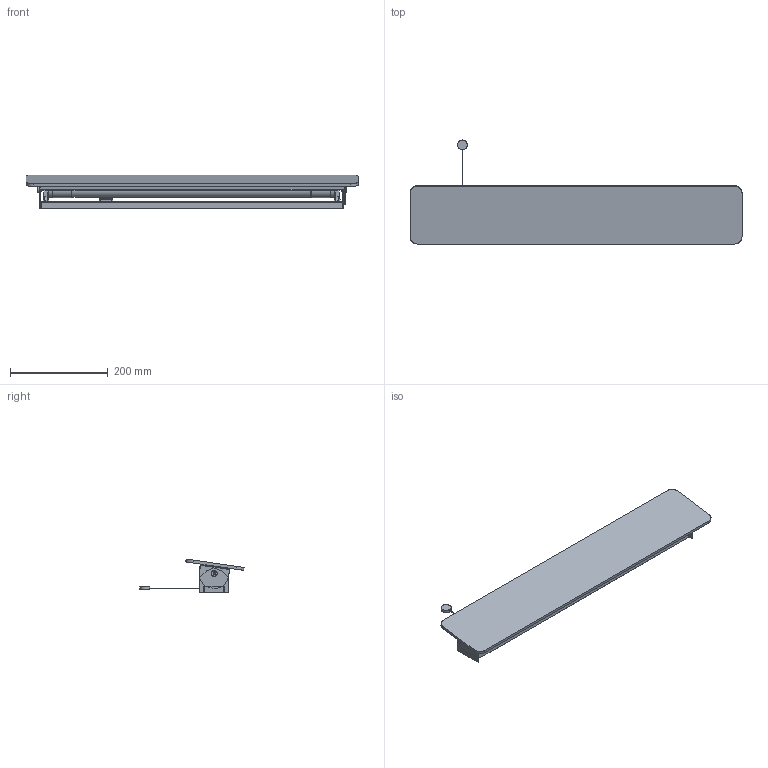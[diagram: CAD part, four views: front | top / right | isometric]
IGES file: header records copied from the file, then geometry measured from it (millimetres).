
Start section: SolidWorks IGES file using analytic representation for surfaces
Global section: file name: E:\....SOLID WORKS\...BORYS\OSLO\OSLO kinkiet T8\kinkiet 600\OSLO KINKIET 600.IGS; native system: SolidWorks 2016; preprocessor: SolidWorks 2016; author: DELL; date: 170419.104542; units: millimetre
Bounding box: 680 x 213.11 x 69.61 mm (x, y, z)
Surface area: 445001.7 mm2 (no closed solid volume)
Topology: 0 solids, 0 shells, 601 faces, 7154 edges, 7148 vertices
Faces by surface type: bspline 384, revolution 217
